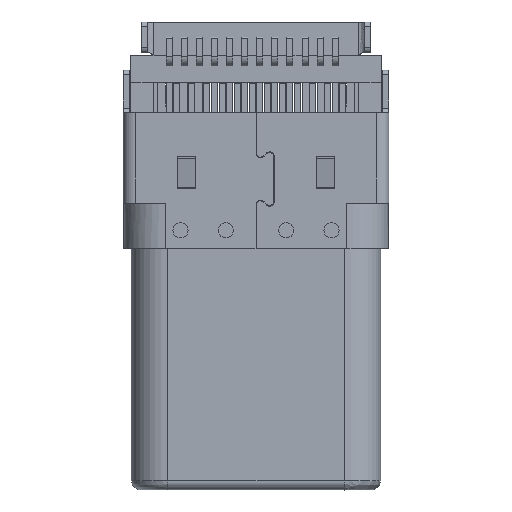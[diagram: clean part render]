
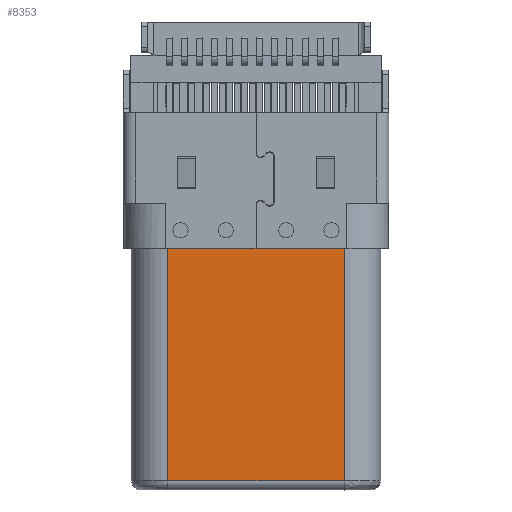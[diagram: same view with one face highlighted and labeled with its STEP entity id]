
A CAD part, front view. The second image highlights one B-rep face of the part: STEP entity #8353.
In plain terms, the highlighted free-form (B-spline) face has degree [1, 1] with [2, 2] control points.
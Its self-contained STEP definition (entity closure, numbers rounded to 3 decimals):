
#1705 = EDGE_CURVE ( 'NONE', #63670, #36414, #39750, .T. ) ;
#3345 = CARTESIAN_POINT ( 'NONE',  ( -2.925, -1.2, 0.3 ) ) ;
#4344 = VECTOR ( 'NONE', #43487, 1000. ) ;
#5364 = VERTEX_POINT ( 'NONE', #96801 ) ;
#8353 = ADVANCED_FACE ( 'NONE', ( #93032 ), #23010, .F. ) ;
#11387 = CARTESIAN_POINT ( 'NONE',  ( 2.925, -1.2, 0.3 ) ) ;
#11788 = ORIENTED_EDGE ( 'NONE', *, *, #68675, .T. ) ;
#19252 = CARTESIAN_POINT ( 'NONE',  ( 3.042, -1.2, 10.026 ) ) ;
#23010 = B_SPLINE_SURFACE_WITH_KNOTS ( 'NONE', 1, 1, ( 
 ( #41403, #25665 ),
 ( #19252, #64025 ) ),
 .UNSPECIFIED., .F., .F., .F.,
 ( 2, 2 ),
 ( 2, 2 ),
 ( -3.042, 3.042 ),
 ( -4.958, 4.958 ),
 .UNSPECIFIED. ) ;
#23294 = LINE ( 'NONE', #75881, #96881 ) ;
#25665 = CARTESIAN_POINT ( 'NONE',  ( -3.042, -1.2, 0.109 ) ) ;
#36414 = VERTEX_POINT ( 'NONE', #96170 ) ;
#37902 = EDGE_CURVE ( 'NONE', #5364, #87122, #50852, .T. ) ;
#38778 = CARTESIAN_POINT ( 'NONE',  ( 2.925, -1.2, 9.835 ) ) ;
#39750 = LINE ( 'NONE', #38778, #88659 ) ;
#41403 = CARTESIAN_POINT ( 'NONE',  ( -3.042, -1.2, 10.026 ) ) ;
#43487 = DIRECTION ( 'NONE',  ( 1., 0., 0. ) ) ;
#50337 = CARTESIAN_POINT ( 'NONE',  ( -2.925, -1.2, 9.835 ) ) ;
#50852 = LINE ( 'NONE', #3345, #4344 ) ;
#51759 = EDGE_LOOP ( 'NONE', ( #60939, #11788, #95912, #91709 ) ) ;
#51788 = LINE ( 'NONE', #50337, #82558 ) ;
#55246 = DIRECTION ( 'NONE',  ( 0., 0., 1. ) ) ;
#58397 = EDGE_CURVE ( 'NONE', #87122, #63670, #23294, .T. ) ;
#60939 = ORIENTED_EDGE ( 'NONE', *, *, #1705, .T. ) ;
#63670 = VERTEX_POINT ( 'NONE', #72651 ) ;
#64025 = CARTESIAN_POINT ( 'NONE',  ( 3.042, -1.2, 0.109 ) ) ;
#65075 = DIRECTION ( 'NONE',  ( 0., 0., -1. ) ) ;
#68675 = EDGE_CURVE ( 'NONE', #36414, #5364, #51788, .T. ) ;
#72651 = CARTESIAN_POINT ( 'NONE',  ( 2.925, -1.2, 9.835 ) ) ;
#75881 = CARTESIAN_POINT ( 'NONE',  ( 2.925, -1.2, 0.3 ) ) ;
#76134 = DIRECTION ( 'NONE',  ( -1., 0., 0. ) ) ;
#82558 = VECTOR ( 'NONE', #65075, 1000. ) ;
#87122 = VERTEX_POINT ( 'NONE', #11387 ) ;
#88659 = VECTOR ( 'NONE', #76134, 1000. ) ;
#91709 = ORIENTED_EDGE ( 'NONE', *, *, #58397, .T. ) ;
#93032 = FACE_OUTER_BOUND ( 'NONE', #51759, .T. ) ;
#95912 = ORIENTED_EDGE ( 'NONE', *, *, #37902, .T. ) ;
#96170 = CARTESIAN_POINT ( 'NONE',  ( -2.925, -1.2, 9.835 ) ) ;
#96801 = CARTESIAN_POINT ( 'NONE',  ( -2.925, -1.2, 0.3 ) ) ;
#96881 = VECTOR ( 'NONE', #55246, 1000. ) ;
